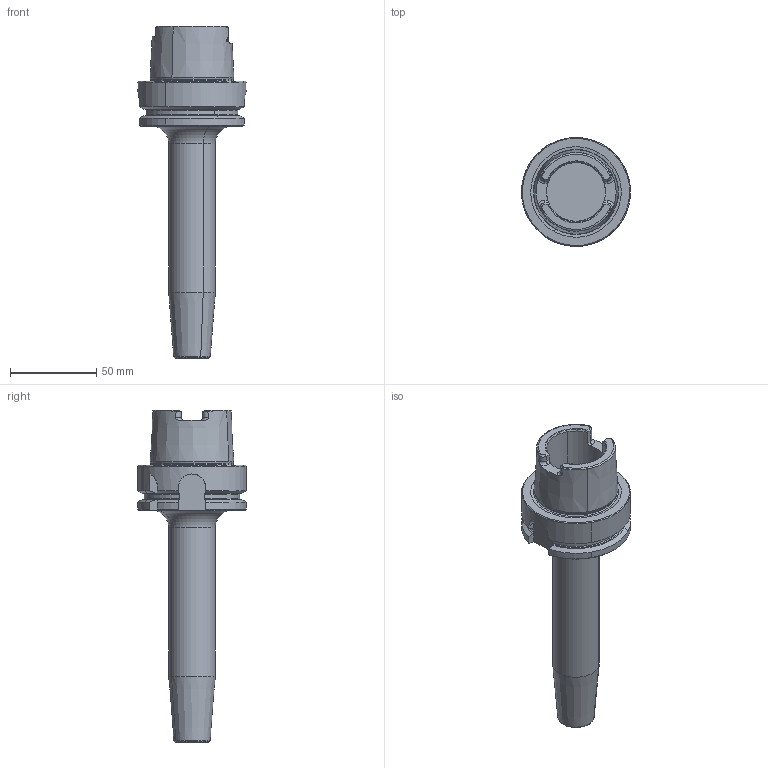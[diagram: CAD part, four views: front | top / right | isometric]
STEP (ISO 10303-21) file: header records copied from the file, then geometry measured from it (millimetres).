
FILE_DESCRIPTION(('CATIA V5 STEP','CAx-IF Rec.Pracs.--- Model Styling and Organization---1.2---2011-12-15'),'2;1');
FILE_NAME('\\nas01\drv1\utils\eitdev\rte\eit\transmagicconvert\db\out\4504018 L.stp','2014-03-30T05:16:58+00:00',('none'),('none'),'CATIA Version 5 Release 21 SP 5 (IN-10)','CATIA V5 STEP AP214','none');
FILE_SCHEMA(('AUTOMOTIVE_DESIGN { 1 0 10303 214 1 1 1 1 }'));
Length unit declared in the file: millimetre
Products named in the file (1): 60796676_0 Holder-Tool HSK A 63 SRKIN 8X160
Bounding box: 62.99 x 63 x 192 mm (x, y, z)
Volume: 165040.5 mm3; surface area: 31389.4 mm2
Topology: 1 solids, 1 shells, 136 faces, 349 edges, 218 vertices
Faces by surface type: plane 41, cone 35, cylinder 32, torus 28
Entity records: 4192 total; most frequent: CARTESIAN_POINT 1272, ORIENTED_EDGE 698, DIRECTION 432, EDGE_CURVE 349, AXIS2_PLACEMENT_3D 232, VERTEX_POINT 218, CIRCLE 151, EDGE_LOOP 139
